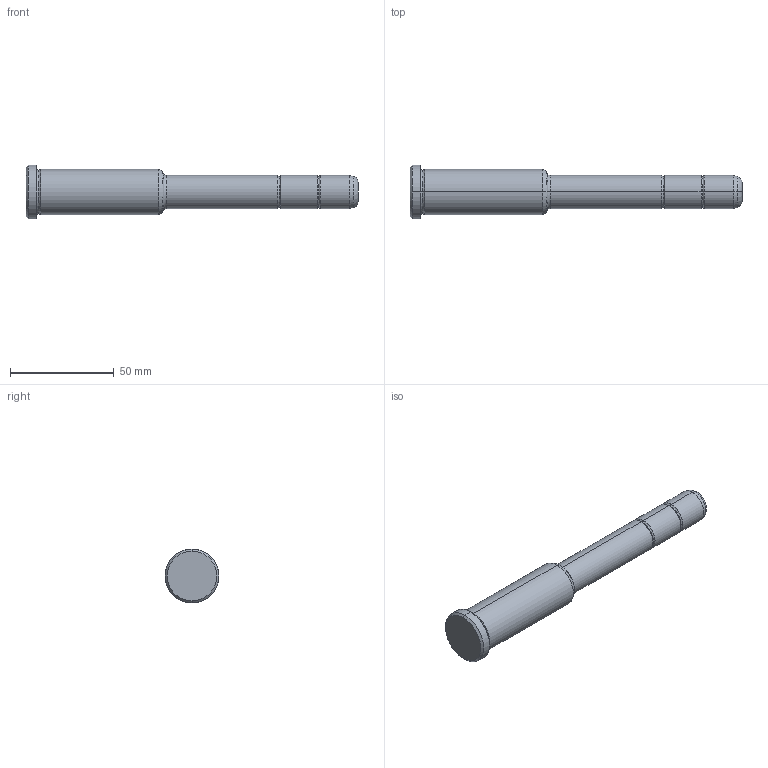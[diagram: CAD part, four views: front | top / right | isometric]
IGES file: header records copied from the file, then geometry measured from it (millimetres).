
Start section: START RECORD GO HERE.
Global section: file name: 351-16X66X160.igs; native system: DASSAULT SYSTEMES CATIA V5 R20 - www.3ds.com; preprocessor: CATIA Version 5 Release 20 ; author: Utente; organization: NB04-ASUS; date: 20210818.134421; units: millimetre
Bounding box: 160 x 26 x 26 mm (x, y, z)
Surface area: 10232.6 mm2 (no closed solid volume)
Topology: 0 solids, 0 shells, 36 faces, 204 edges, 204 vertices
Faces by surface type: revolution 32, plane 4
